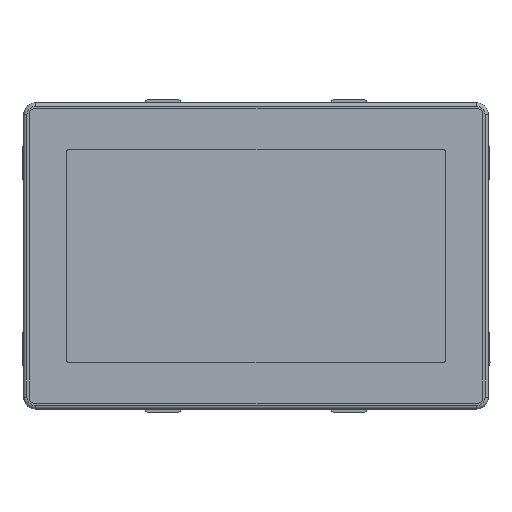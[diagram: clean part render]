
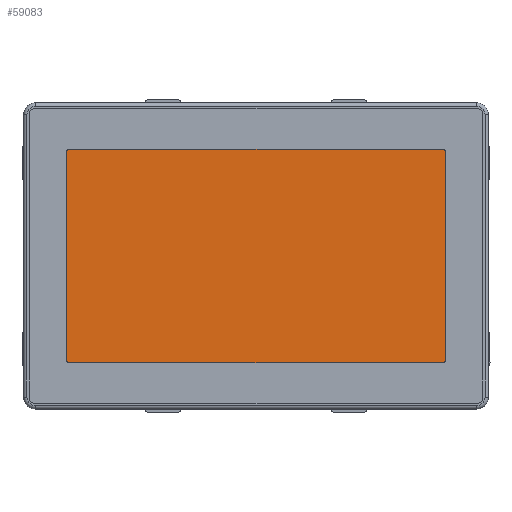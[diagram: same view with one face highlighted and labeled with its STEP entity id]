
A CAD part, top view. The second image highlights one B-rep face of the part: STEP entity #59083.
In plain terms, the highlighted planar face has unit normal (0, 0, 1).
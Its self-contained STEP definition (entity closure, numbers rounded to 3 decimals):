
#4873 = CARTESIAN_POINT ( 'NONE',  ( -171.05, -97.6, 5. ) ) ;
#14686 = VECTOR ( 'NONE', #333862, 1000. ) ;
#20363 = ORIENTED_EDGE ( 'NONE', *, *, #64166, .F. ) ;
#24594 = CIRCLE ( 'NONE', #207926, 2. ) ;
#26472 = DIRECTION ( 'NONE',  ( -1., 0., 0. ) ) ;
#27605 = CARTESIAN_POINT ( 'NONE',  ( -173.05, 95.6, 5. ) ) ;
#40753 = EDGE_LOOP ( 'NONE', ( #300095, #67341, #20363, #76500, #248080, #359419, #238346, #315010 ) ) ;
#43383 = CARTESIAN_POINT ( 'NONE',  ( -173.05, -135., 5. ) ) ;
#46790 = DIRECTION ( 'NONE',  ( 0., -1., 0. ) ) ;
#47083 = CARTESIAN_POINT ( 'NONE',  ( -207.5, -135., 5. ) ) ;
#59083 = ADVANCED_FACE ( 'NONE', ( #145124 ), #102712, .T. ) ;
#64166 = EDGE_CURVE ( 'NONE', #260217, #220355, #24594, .T. ) ;
#67341 = ORIENTED_EDGE ( 'NONE', *, *, #230719, .F. ) ;
#75515 = DIRECTION ( 'NONE',  ( 1., 0., 0. ) ) ;
#76500 = ORIENTED_EDGE ( 'NONE', *, *, #138279, .F. ) ;
#79038 = VERTEX_POINT ( 'NONE', #251896 ) ;
#83117 = CARTESIAN_POINT ( 'NONE',  ( 171.05, 97.6, 5. ) ) ;
#86143 = EDGE_CURVE ( 'NONE', #79038, #128824, #314988, .T. ) ;
#89650 = VECTOR ( 'NONE', #46790, 1000. ) ;
#102543 = AXIS2_PLACEMENT_3D ( 'NONE', #127510, #325037, #155998 ) ;
#102712 = PLANE ( 'NONE',  #297655 ) ;
#105340 = VERTEX_POINT ( 'NONE', #136657 ) ;
#106127 = CARTESIAN_POINT ( 'NONE',  ( 173.05, -95.6, 5. ) ) ;
#109808 = CARTESIAN_POINT ( 'NONE',  ( -171.05, 95.6, 5. ) ) ;
#127510 = CARTESIAN_POINT ( 'NONE',  ( 171.05, 95.6, 5. ) ) ;
#128824 = VERTEX_POINT ( 'NONE', #106127 ) ;
#135504 = LINE ( 'NONE', #195625, #285801 ) ;
#136657 = CARTESIAN_POINT ( 'NONE',  ( -171.05, 97.6, 5. ) ) ;
#138189 = DIRECTION ( 'NONE',  ( 1., 0., 0. ) ) ;
#138279 = EDGE_CURVE ( 'NONE', #277019, #260217, #135504, .T. ) ;
#139906 = EDGE_CURVE ( 'NONE', #105340, #319697, #239969, .T. ) ;
#144205 = DIRECTION ( 'NONE',  ( 0., 0., -1. ) ) ;
#145124 = FACE_OUTER_BOUND ( 'NONE', #40753, .T. ) ;
#152024 = AXIS2_PLACEMENT_3D ( 'NONE', #313269, #144205, #341591 ) ;
#152958 = DIRECTION ( 'NONE',  ( 0., 0., -1. ) ) ;
#155998 = DIRECTION ( 'NONE',  ( 1., 0., 0. ) ) ;
#160471 = CIRCLE ( 'NONE', #152024, 2. ) ;
#168914 = LINE ( 'NONE', #43383, #310122 ) ;
#174687 = CIRCLE ( 'NONE', #102543, 2. ) ;
#178431 = EDGE_CURVE ( 'NONE', #128824, #277019, #160471, .T. ) ;
#187737 = CARTESIAN_POINT ( 'NONE',  ( 173.05, -135., 5. ) ) ;
#195625 = CARTESIAN_POINT ( 'NONE',  ( -207.5, -97.6, 5. ) ) ;
#206006 = VERTEX_POINT ( 'NONE', #27605 ) ;
#207926 = AXIS2_PLACEMENT_3D ( 'NONE', #322025, #152958, #350320 ) ;
#213815 = DIRECTION ( 'NONE',  ( 0., 1., 0. ) ) ;
#220355 = VERTEX_POINT ( 'NONE', #249135 ) ;
#230719 = EDGE_CURVE ( 'NONE', #220355, #206006, #168914, .T. ) ;
#238346 = ORIENTED_EDGE ( 'NONE', *, *, #323571, .F. ) ;
#239969 = LINE ( 'NONE', #251256, #14686 ) ;
#244710 = DIRECTION ( 'NONE',  ( 0., 0., 1. ) ) ;
#248080 = ORIENTED_EDGE ( 'NONE', *, *, #178431, .F. ) ;
#249135 = CARTESIAN_POINT ( 'NONE',  ( -173.05, -95.6, 5. ) ) ;
#251256 = CARTESIAN_POINT ( 'NONE',  ( -207.5, 97.6, 5. ) ) ;
#251896 = CARTESIAN_POINT ( 'NONE',  ( 173.05, 95.6, 5. ) ) ;
#260217 = VERTEX_POINT ( 'NONE', #4873 ) ;
#277019 = VERTEX_POINT ( 'NONE', #327191 ) ;
#285801 = VECTOR ( 'NONE', #26472, 1000. ) ;
#293069 = EDGE_CURVE ( 'NONE', #206006, #105340, #335304, .T. ) ;
#297655 = AXIS2_PLACEMENT_3D ( 'NONE', #47083, #244710, #75515 ) ;
#300095 = ORIENTED_EDGE ( 'NONE', *, *, #293069, .F. ) ;
#307309 = DIRECTION ( 'NONE',  ( 0., 0., -1. ) ) ;
#310122 = VECTOR ( 'NONE', #213815, 1000. ) ;
#313269 = CARTESIAN_POINT ( 'NONE',  ( 171.05, -95.6, 5. ) ) ;
#314988 = LINE ( 'NONE', #187737, #89650 ) ;
#315010 = ORIENTED_EDGE ( 'NONE', *, *, #139906, .F. ) ;
#315533 = AXIS2_PLACEMENT_3D ( 'NONE', #109808, #307309, #138189 ) ;
#319697 = VERTEX_POINT ( 'NONE', #83117 ) ;
#322025 = CARTESIAN_POINT ( 'NONE',  ( -171.05, -95.6, 5. ) ) ;
#323571 = EDGE_CURVE ( 'NONE', #319697, #79038, #174687, .T. ) ;
#325037 = DIRECTION ( 'NONE',  ( 0., 0., -1. ) ) ;
#327191 = CARTESIAN_POINT ( 'NONE',  ( 171.05, -97.6, 5. ) ) ;
#333862 = DIRECTION ( 'NONE',  ( 1., 0., 0. ) ) ;
#335304 = CIRCLE ( 'NONE', #315533, 2. ) ;
#341591 = DIRECTION ( 'NONE',  ( 1., 0., 0. ) ) ;
#350320 = DIRECTION ( 'NONE',  ( 1., 0., 0. ) ) ;
#359419 = ORIENTED_EDGE ( 'NONE', *, *, #86143, .F. ) ;
